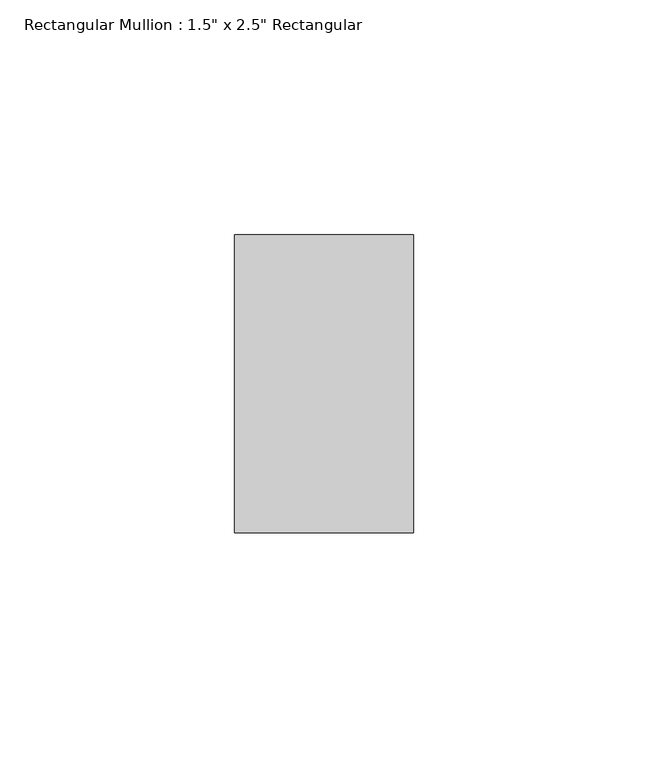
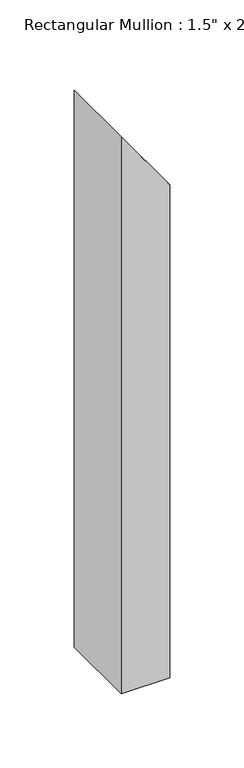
"""IFC4 building model written with IfcOpenShell, lengths in millimetres: member geometry."""

from ifc_helpers import new_model, si_unit, frame, origin, place, context, project, spatial, polyline, outline, extrude, source, transform, mapped, element, save


def member_6675e4ca(model_context):
    return source(origin(), model_context, "Body", "SweptSolid", [
        extrude(outline(polyline([(0.0, 0.0), (52.8609263, -38.1), (-406.4, -38.1), (-406.4, 0.0), (0.0, 0.0)])), frame((0.0, -31.75, 0.0), z_axis=(0.0, 1.0, 0.0), x_axis=(0.0, 0.0, 1.0)), (0.0, 0.0, 1.0), 63.5),
    ])


if __name__ == "__main__":
    model = new_model("IFC4")
    model_context = context("Model", 3, world=origin())
    ifc_project = project(units=[si_unit("LENGTHUNIT", "METRE", prefix="MILLI")], contexts=[model_context])
    site = spatial("IfcSite", under=ifc_project)
    building = spatial("IfcBuilding", under=site)
    placement = place(None, origin())
    member_shape = member_6675e4ca(model_context)
    element("IfcMember", 1, ObjectType="Rectangular Mullion : 1.5\" x 2.5\" Rectangular", at=placement, inside=building, context=model_context, shape_type="MappedRepresentation", body=[
        mapped(member_shape, transform((0.0, 0.0, 0.0), x_axis=(1.0, 0.0, 0.0), y_axis=(0.0, 1.0, 0.0), z_axis=(0.0, 0.0, 1.0))),
    ])
    save(model, "model.ifc")
